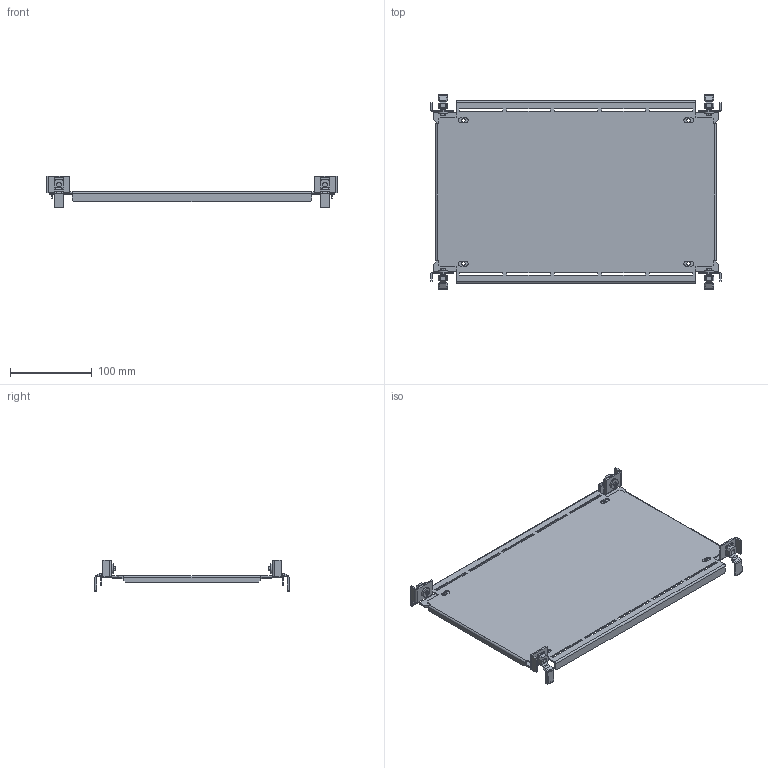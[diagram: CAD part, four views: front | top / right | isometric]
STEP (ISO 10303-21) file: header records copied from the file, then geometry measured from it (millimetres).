
FILE_DESCRIPTION(('CAx-IF Rec.Pracs.---Model Styling and Organization---1.2---2011-12-15','CAx-IF Rec.Pracs.---Geometric and Assembly Validation Properties---4.1---2014-06-16','CAx-IF Rec.Pracs.---PMI Polyline Presentation---2.0---2013-05-24'),'2;1');
FILE_NAME('R5CPB425.stp','2021-05-06T03:24:23+03:00',(''),(''),'STEP Interface 4.4 by CT CoreTechnologie','3D_Evolution4.4 by CT CoreTechnologie','');
FILE_SCHEMA(('AUTOMOTIVE_DESIGN { 1 0 10303 214 1 1 1 1 }'));
Length unit declared in the file: millimetre
Products named in the file (6): R5CPB425; AC00C485; M6x16-DIN 7985 ISR_thread; RB.0546.00.00.0_-00; RB.0546.00.00.0_-01; RB.0726.00.00.0_-12
Assembly tree (13 placements, depth 2):
  R5CPB425
    AC00C485  x4
    M6x16-DIN 7985 ISR_thread  x4
    RB.0546.00.00.0_-00  x2
    RB.0546.00.00.0_-01  x2
    RB.0726.00.00.0_-12
Bounding box: 355 x 237 x 39.05 mm (x, y, z)
Surface area: 186131.9 mm2 (no closed solid volume)
Topology: 0 solids, 21 shells, 576 faces, 1458 edges, 912 vertices
Faces by surface type: plane 324, cylinder 196, bspline 56
Entity records: 8639 total; most frequent: CARTESIAN_POINT 1873, ORIENTED_EDGE 1334, DIRECTION 1294, EDGE_CURVE 667, VECTOR 520, LINE 520, VERTEX_POINT 430, AXIS2_PLACEMENT_3D 387
